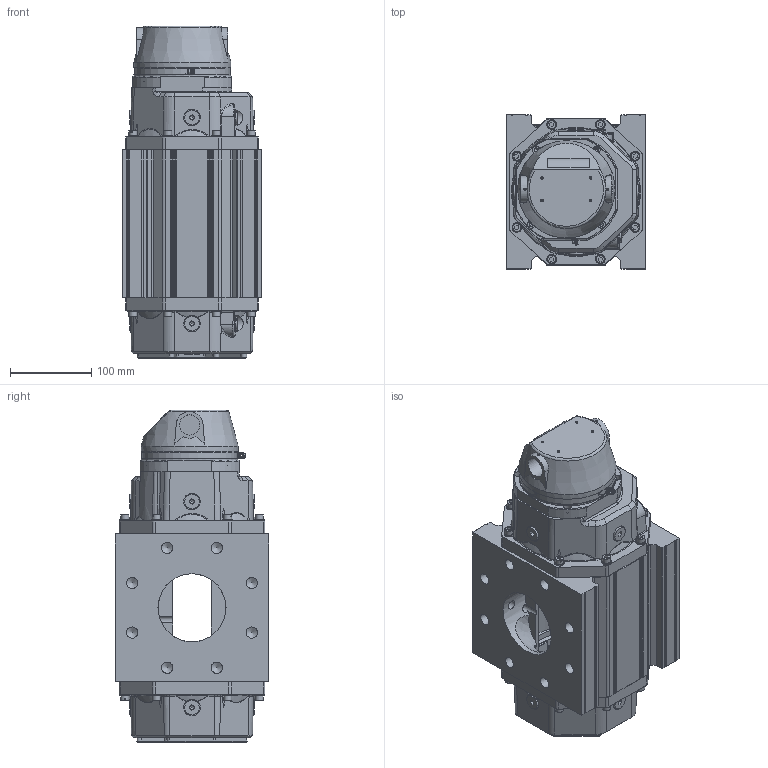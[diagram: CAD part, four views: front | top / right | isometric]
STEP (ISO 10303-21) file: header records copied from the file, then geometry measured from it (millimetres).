
FILE_DESCRIPTION(('STEP AP203'), '1');
FILE_NAME('G100-K-DN80', '2024-02-08T15:08:05', (''), (''), 'C3D Converter', 'C3D Toolkit', '');
FILE_SCHEMA(('CONFIG_CONTROL_DESIGN'));
Length unit declared in the file: millimetre
Products named in the file (1): РГ-Р G100-K-DN80
Bounding box: 171 x 190 x 409.8 mm (x, y, z)
Volume: 5273136.6 mm3; surface area: 525912 mm2
Topology: 3 solids, 3 shells, 1611 faces, 4015 edges, 2512 vertices
Faces by surface type: plane 634, cylinder 517, bspline 215, cone 140, torus 87, sphere 18
Full cylindrical faces by diameter (mm): 2 x12, 2.05 x2, 2.5 x8, 3.175 x1, 3.2 x1, 3.3 x1, 4.2 x4, 4.5 x1, 5 x8, 5.2 x4, 5.774 x9, 6.2 x1, 6.35 x4, 7.8 x4, 8 x4, 9 x2, 9.4 x4, 10 x18, 11 x11, 11.125 x2, 12 x16, 13.096 x14, 14 x18, 16 x6, 17.6 x5, 18 x9, 20 x2, 20.5 x14, 22 x2, 25 x2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
Entity records: 90619 total; most frequent: CARTESIAN_POINT 43110, ORIENTED_EDGE 7226, DIRECTION 6512, EDGE_CURVE 3613, AXIS2_PLACEMENT_3D 2541, VERTEX_POINT 2459, EDGE_LOOP 2118, FACE_BOUND 1652
